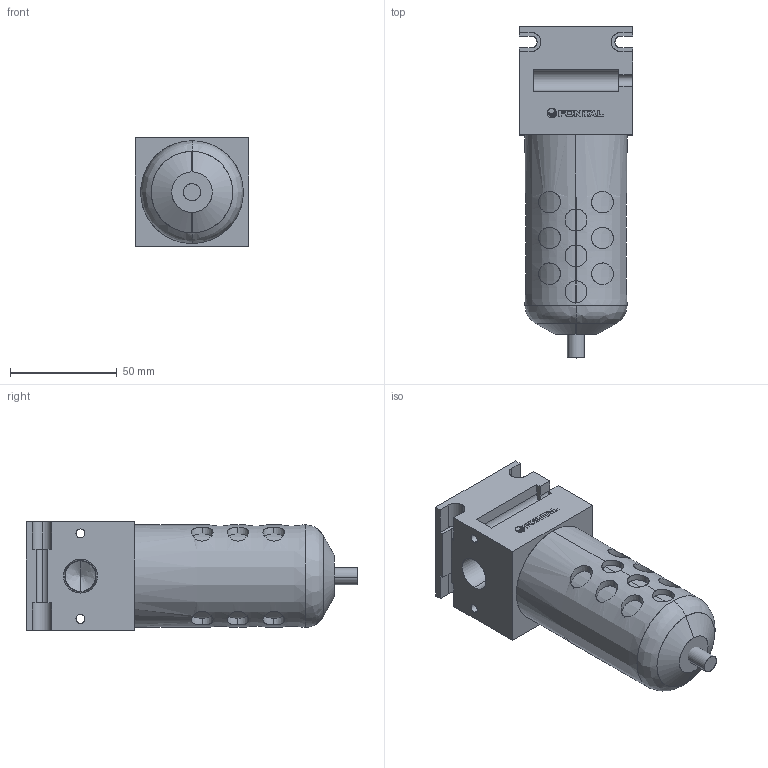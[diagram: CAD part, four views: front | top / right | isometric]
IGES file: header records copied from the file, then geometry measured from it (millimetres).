
Start section: SolidWorks IGES file using analytic representation for surfaces
Global section: file name: C:\Users\Toshiba\Desktop\F55-03#Y#.IGS; native system: SolidWorks 2014; preprocessor: SolidWorks 2014; author: Toshiba; date: 160203.141509; units: millimetre
Bounding box: 53 x 155.5 x 51.12 mm (x, y, z)
Surface area: 40625.8 mm2 (no closed solid volume)
Topology: 0 solids, 0 shells, 237 faces, 4372 edges, 4368 vertices
Faces by surface type: bspline 119, revolution 118
